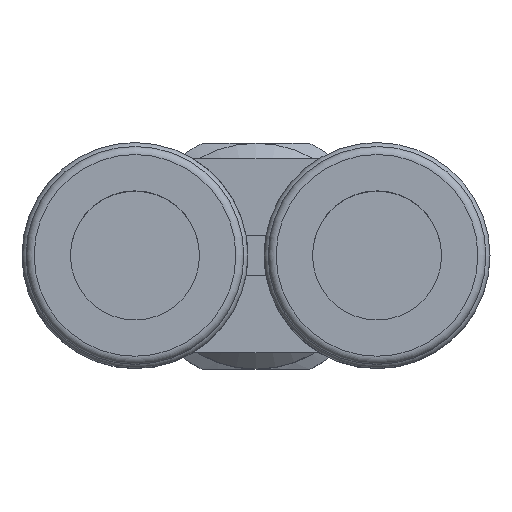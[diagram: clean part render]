
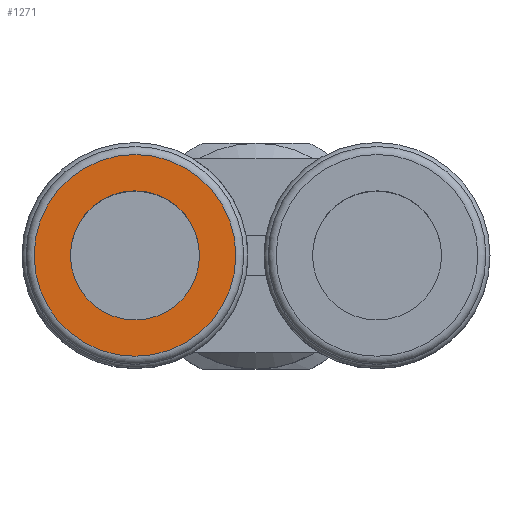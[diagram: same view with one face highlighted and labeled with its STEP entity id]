
A CAD part, top view. The second image highlights one B-rep face of the part: STEP entity #1271.
In plain terms, the highlighted planar face has unit normal (0, 0, 1).
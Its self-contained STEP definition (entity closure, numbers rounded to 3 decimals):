
#213=PLANE($,#1399);
#243=FACE_BOUND($,#397,.T.);
#244=FACE_BOUND($,#398,.T.);
#397=EDGE_LOOP($,(#994));
#398=EDGE_LOOP($,(#995));
#507=CIRCLE($,#1391,4.);
#509=CIRCLE($,#1395,6.25);
#602=VERTEX_POINT($,#2109);
#604=VERTEX_POINT($,#2115);
#745=EDGE_CURVE($,#602,#602,#507,.T.);
#747=EDGE_CURVE($,#604,#604,#509,.T.);
#994=ORIENTED_EDGE($,*,*,#745,.F.);
#995=ORIENTED_EDGE($,*,*,#747,.T.);
#1271=ADVANCED_FACE($,(#243,#244),#213,.T.);
#1391=AXIS2_PLACEMENT_3D($,#2110,#1642,#1643);
#1395=AXIS2_PLACEMENT_3D($,#2116,#1650,#1651);
#1399=AXIS2_PLACEMENT_3D($,#2122,#1658,#1659);
#1642=DIRECTION('center_axis',(0.,0.,1.));
#1643=DIRECTION('ref_axis',(-1.,0.,0.));
#1650=DIRECTION('center_axis',(0.,0.,1.));
#1651=DIRECTION('ref_axis',(1.,0.,0.));
#1658=DIRECTION('center_axis',(0.,0.,1.));
#1659=DIRECTION('ref_axis',(1.,0.,0.));
#2109=CARTESIAN_POINT('',(-11.5,0.,34.4));
#2110=CARTESIAN_POINT('Origin',(-7.5,0.,34.4));
#2115=CARTESIAN_POINT('',(-13.75,0.,34.4));
#2116=CARTESIAN_POINT('Origin',(-7.5,0.,34.4));
#2122=CARTESIAN_POINT('Origin',(-7.5,0.,34.4));
